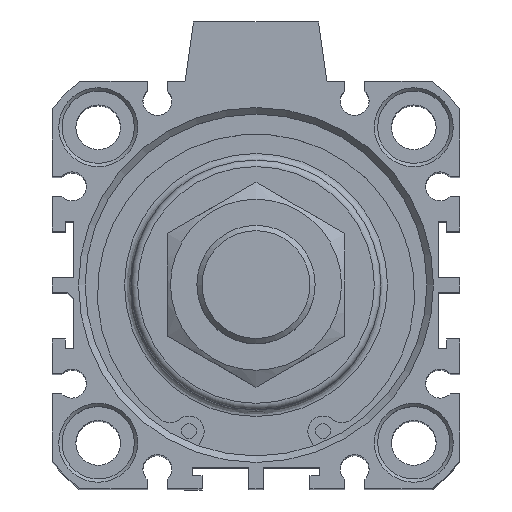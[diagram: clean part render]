
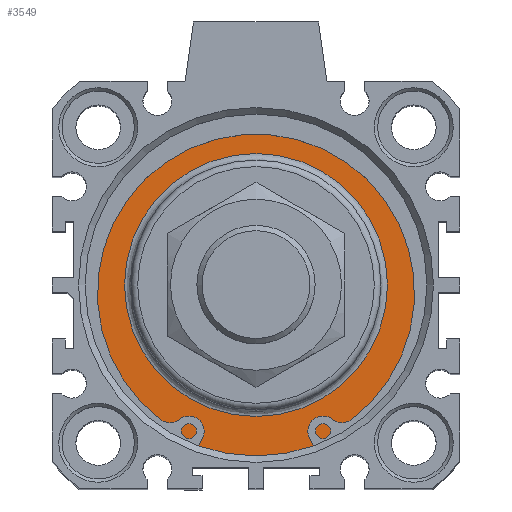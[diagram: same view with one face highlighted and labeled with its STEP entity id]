
A CAD part, top view. The second image highlights one B-rep face of the part: STEP entity #3549.
In plain terms, the highlighted planar face has unit normal (0, 0, 1).
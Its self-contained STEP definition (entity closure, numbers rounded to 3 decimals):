
#3498=CARTESIAN_POINT('',(-0.12,20.837,99.3));
#3499=VERTEX_POINT('',#3498);
#3500=CARTESIAN_POINT('',(-0.12,0.837,99.3));
#3501=DIRECTION('',(0.0,0.0,1.0));
#3502=DIRECTION('',(0.0,-1.0,0.0));
#3503=AXIS2_PLACEMENT_3D('',#3500,#3501,#3502);
#3504=CIRCLE('',#3503,20.);
#3505=EDGE_CURVE('',#3499,#3499,#3504,.T.);
#3530=CARTESIAN_POINT('',(-0.12,23.337,99.3));
#3531=DIRECTION('',(0.0,0.0,1.0));
#3532=DIRECTION('',(1.0,0.0,0.0));
#3533=AXIS2_PLACEMENT_3D('',#3530,#3531,#3532);
#3534=PLANE('',#3533);
#3535=CARTESIAN_POINT('',(-0.12,26.837,99.3));
#3536=VERTEX_POINT('',#3535);
#3537=CARTESIAN_POINT('',(-0.12,0.837,99.3));
#3538=DIRECTION('',(0.0,0.0,-1.0));
#3539=DIRECTION('',(0.0,1.0,0.0));
#3540=AXIS2_PLACEMENT_3D('',#3537,#3538,#3539);
#3541=CIRCLE('',#3540,26.);
#3542=EDGE_CURVE('',#3536,#3536,#3541,.T.);
#3543=ORIENTED_EDGE('',*,*,#3542,.F.);
#3544=EDGE_LOOP('',(#3543));
#3545=FACE_OUTER_BOUND('',#3544,.T.);
#3546=ORIENTED_EDGE('',*,*,#3505,.F.);
#3547=EDGE_LOOP('',(#3546));
#3548=FACE_BOUND('',#3547,.T.);
#3549=ADVANCED_FACE('',(#3545,#3548),#3534,.T.);
